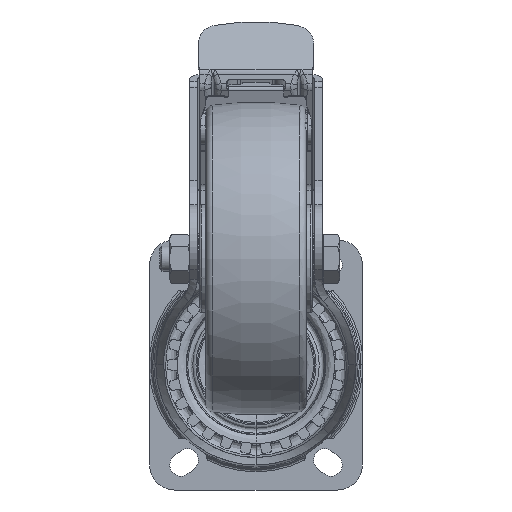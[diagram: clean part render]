
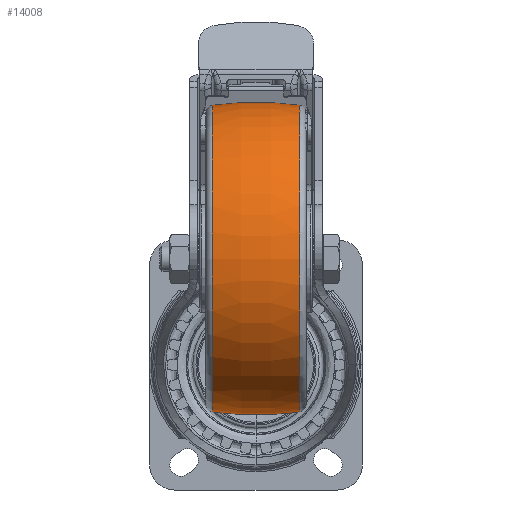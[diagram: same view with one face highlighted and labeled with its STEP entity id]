
A CAD part, front view. The second image highlights one B-rep face of the part: STEP entity #14008.
In plain terms, the highlighted toroidal (fillet/blend) face has major radius 62.5 mm and minor radius 125 mm.
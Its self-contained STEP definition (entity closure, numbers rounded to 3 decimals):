
#304 = AXIS2_PLACEMENT_3D ( 'NONE', #59711, #29064, #60625 ) ;
#3019 = VERTEX_POINT ( 'NONE', #80577 ) ;
#10166 = DIRECTION ( 'NONE',  ( 1., 0., 0. ) ) ;
#10822 = EDGE_CURVE ( 'NONE', #107433, #3019, #114165, .T. ) ;
#13268 = DIRECTION ( 'NONE',  ( -1., 0., 0. ) ) ;
#14008 = ADVANCED_FACE ( 'NONE', ( #23411 ), #86595, .T. ) ;
#16313 = ORIENTED_EDGE ( 'NONE', *, *, #66976, .F. ) ;
#20210 = DIRECTION ( 'NONE',  ( -1., 0., 0. ) ) ;
#23411 = FACE_OUTER_BOUND ( 'NONE', #104167, .T. ) ;
#26883 = DIRECTION ( 'NONE',  ( 0.139, 0.99, 0. ) ) ;
#28590 = EDGE_CURVE ( 'NONE', #37749, #107433, #116260, .T. ) ;
#29064 = DIRECTION ( 'NONE',  ( 0., 0., -1. ) ) ;
#37749 = VERTEX_POINT ( 'NONE', #125752 ) ;
#40550 = VERTEX_POINT ( 'NONE', #72307 ) ;
#42438 = DIRECTION ( 'NONE',  ( 0., -1., 0. ) ) ;
#45729 = CARTESIAN_POINT ( 'NONE',  ( 17.418, 61.28, 0. ) ) ;
#51106 = DIRECTION ( 'NONE',  ( 0., -1., 0. ) ) ;
#57963 = CARTESIAN_POINT ( 'NONE',  ( 0., -62.5, 0. ) ) ;
#59402 = AXIS2_PLACEMENT_3D ( 'NONE', #105628, #13268, #51106 ) ;
#59711 = CARTESIAN_POINT ( 'NONE',  ( 0., 62.5, 0. ) ) ;
#60625 = DIRECTION ( 'NONE',  ( 0.139, -0.99, 0. ) ) ;
#66976 = EDGE_CURVE ( 'NONE', #37749, #40550, #86622, .T. ) ;
#72307 = CARTESIAN_POINT ( 'NONE',  ( -17.418, -61.28, 0. ) ) ;
#74773 = AXIS2_PLACEMENT_3D ( 'NONE', #115051, #10166, #105699 ) ;
#80577 = CARTESIAN_POINT ( 'NONE',  ( -17.418, 61.28, 0. ) ) ;
#86595 = TOROIDAL_SURFACE ( 'NONE', #74773, -62.5, 125. ) ;
#86622 = CIRCLE ( 'NONE', #304, 125. ) ;
#101532 = EDGE_CURVE ( 'NONE', #40550, #3019, #112730, .T. ) ;
#104167 = EDGE_LOOP ( 'NONE', ( #120569, #116197, #132804, #16313 ) ) ;
#105628 = CARTESIAN_POINT ( 'NONE',  ( 17.418, 0., 0. ) ) ;
#105699 = DIRECTION ( 'NONE',  ( 0., 1., 0. ) ) ;
#105822 = AXIS2_PLACEMENT_3D ( 'NONE', #126010, #20210, #42438 ) ;
#107433 = VERTEX_POINT ( 'NONE', #45729 ) ;
#112730 = CIRCLE ( 'NONE', #105822, 61.28 ) ;
#114165 = CIRCLE ( 'NONE', #137637, 125. ) ;
#115051 = CARTESIAN_POINT ( 'NONE',  ( 0., 0., 0. ) ) ;
#116197 = ORIENTED_EDGE ( 'NONE', *, *, #10822, .T. ) ;
#116260 = CIRCLE ( 'NONE', #59402, 61.28 ) ;
#120569 = ORIENTED_EDGE ( 'NONE', *, *, #28590, .T. ) ;
#125752 = CARTESIAN_POINT ( 'NONE',  ( 17.418, -61.28, 0. ) ) ;
#126010 = CARTESIAN_POINT ( 'NONE',  ( -17.418, 0., 0. ) ) ;
#132176 = DIRECTION ( 'NONE',  ( 0., 0., 1. ) ) ;
#132804 = ORIENTED_EDGE ( 'NONE', *, *, #101532, .F. ) ;
#137637 = AXIS2_PLACEMENT_3D ( 'NONE', #57963, #132176, #26883 ) ;
